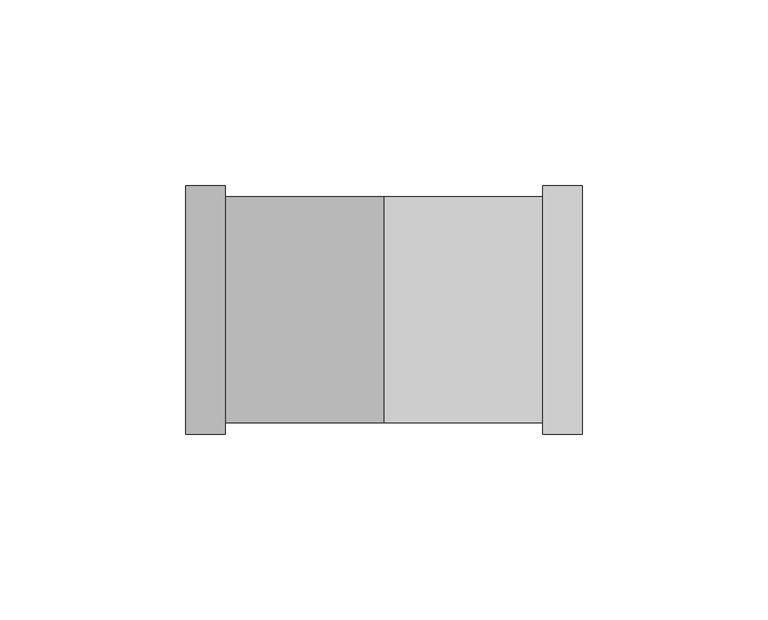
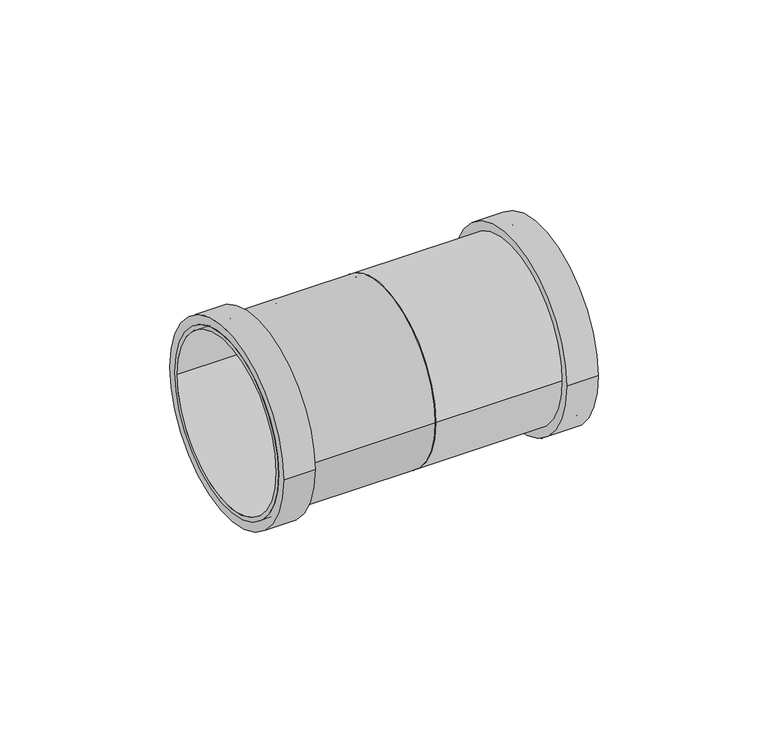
"""IFC4 building model written with IfcOpenShell, lengths in millimetres: pipe fitting geometry, Superdrain SKU-coupler : Superdrain SKU-coupler."""

from ifc_helpers import new_model, si_unit, point, frame, origin, origin_2d, place, context, project, spatial, circle_curve, trimmed, segment, composite_curve, outline, extrude, source, transform, mapped, element, save


def pipe_fitting_ea96c309(model_context):
    return source(origin(), model_context, "Body", "SweptSolid", [
        extrude(outline(composite_curve([segment(trimmed(circle_curve(origin_2d(), 30.45), [point((30.45, 0.0))], [point((-30.45, 0.0))], False, "CARTESIAN"), True, "CONTINUOUS"), segment(trimmed(circle_curve(origin_2d(), 30.45), [point((-30.45, 0.0))], [point((30.45, 0.0))], False, "CARTESIAN"), True, "CONTINUOUS")], self_intersect=False), holes=[composite_curve([segment(trimmed(circle_curve(origin_2d(), 29.0), [point((29.0, 0.0))], [point((-29.0, 0.0))], True, "CARTESIAN"), True, "CONTINUOUS"), segment(trimmed(circle_curve(origin_2d(), 29.0), [point((-29.0, 0.0))], [point((29.0, 0.0))], True, "CARTESIAN"), True, "CONTINUOUS")], self_intersect=False)]), frame((0.0, 0.0, 0.0), z_axis=(1.0, 0.0, 0.0), x_axis=(0.0, 1.0, 0.0)), (0.0, 0.0, 1.0), 53.5),
        extrude(outline(composite_curve([segment(trimmed(circle_curve(origin_2d(), 33.495), [point((33.495, 0.0))], [point((-33.495, 0.0))], False, "CARTESIAN"), True, "CONTINUOUS"), segment(trimmed(circle_curve(origin_2d(), 33.495), [point((-33.495, 0.0))], [point((33.495, 0.0))], False, "CARTESIAN"), True, "CONTINUOUS")], self_intersect=False), holes=[composite_curve([segment(trimmed(circle_curve(origin_2d(), 29.0), [point((29.0, 0.0))], [point((-29.0, 0.0))], True, "CARTESIAN"), True, "CONTINUOUS"), segment(trimmed(circle_curve(origin_2d(), 29.0), [point((-29.0, 0.0))], [point((29.0, 0.0))], True, "CARTESIAN"), True, "CONTINUOUS")], self_intersect=False)]), frame((42.8, 0.0, 0.0), z_axis=(1.0, 0.0, 0.0), x_axis=(0.0, 1.0, 0.0)), (0.0, 0.0, 1.0), 10.7),
        extrude(outline(composite_curve([segment(trimmed(circle_curve(origin_2d(), 30.45), [point((-30.45, 0.0))], [point((30.45, 0.0))], False, "CARTESIAN"), True, "CONTINUOUS"), segment(trimmed(circle_curve(origin_2d(), 30.45), [point((30.45, 0.0))], [point((-30.45, 0.0))], False, "CARTESIAN"), True, "CONTINUOUS")], self_intersect=False), holes=[composite_curve([segment(trimmed(circle_curve(origin_2d(), 29.0), [point((-29.0, 0.0))], [point((29.0, 0.0))], True, "CARTESIAN"), True, "CONTINUOUS"), segment(trimmed(circle_curve(origin_2d(), 29.0), [point((29.0, 0.0))], [point((-29.0, 0.0))], True, "CARTESIAN"), True, "CONTINUOUS")], self_intersect=False)]), frame((-53.5, 0.0, 0.0), z_axis=(1.0, 0.0, 0.0), x_axis=(0.0, 1.0, 0.0)), (0.0, 0.0, 1.0), 53.5),
        extrude(outline(composite_curve([segment(trimmed(circle_curve(origin_2d(), 33.495), [point((-33.495, 0.0))], [point((33.495, 0.0))], False, "CARTESIAN"), True, "CONTINUOUS"), segment(trimmed(circle_curve(origin_2d(), 33.495), [point((33.495, 0.0))], [point((-33.495, 0.0))], False, "CARTESIAN"), True, "CONTINUOUS")], self_intersect=False), holes=[composite_curve([segment(trimmed(circle_curve(origin_2d(), 29.0), [point((-29.0, 0.0))], [point((29.0, 0.0))], True, "CARTESIAN"), True, "CONTINUOUS"), segment(trimmed(circle_curve(origin_2d(), 29.0), [point((29.0, 0.0))], [point((-29.0, 0.0))], True, "CARTESIAN"), True, "CONTINUOUS")], self_intersect=False)]), frame((-53.5, 0.0, 0.0), z_axis=(1.0, 0.0, 0.0), x_axis=(0.0, 1.0, 0.0)), (0.0, 0.0, 1.0), 10.7),
    ])


if __name__ == "__main__":
    model = new_model("IFC4")
    model_context = context("Model", 3, world=origin())
    ifc_project = project(units=[si_unit("LENGTHUNIT", "METRE", prefix="MILLI")], contexts=[model_context])
    site = spatial("IfcSite", under=ifc_project)
    building = spatial("IfcBuilding", under=site)
    placement = place(None, origin())
    pipe_fitting_shape = pipe_fitting_ea96c309(model_context)
    element("IfcPipeFitting", 1, ObjectType="Superdrain SKU-coupler : Superdrain SKU-coupler", at=placement, inside=building, context=model_context, shape_type="MappedRepresentation", body=[
        mapped(pipe_fitting_shape, transform((0.0, 0.0, 0.0), x_axis=(1.0, 0.0, 0.0), y_axis=(0.0, 1.0, 0.0), z_axis=(0.0, 0.0, 1.0))),
    ])
    save(model, "model.ifc")
